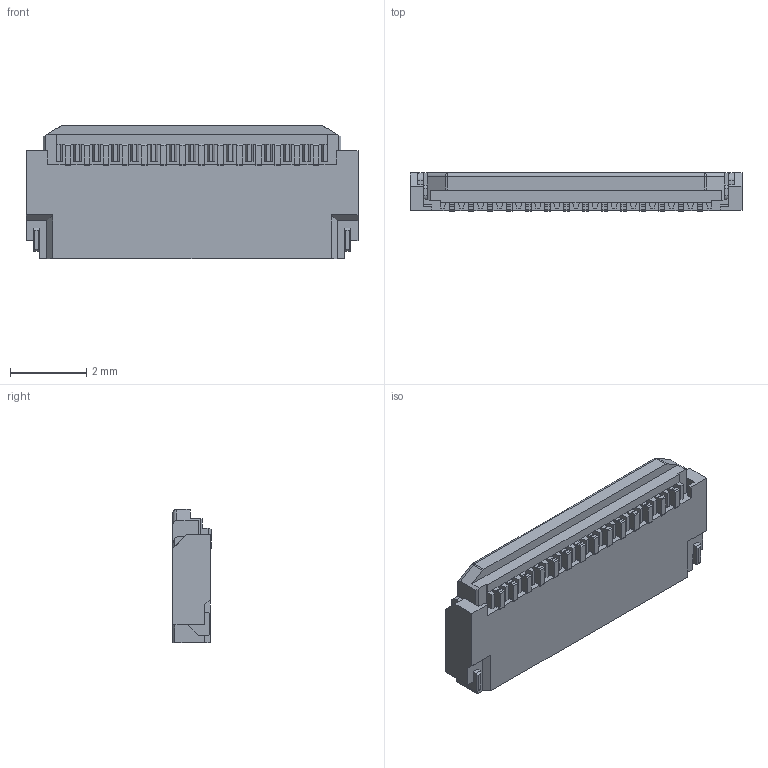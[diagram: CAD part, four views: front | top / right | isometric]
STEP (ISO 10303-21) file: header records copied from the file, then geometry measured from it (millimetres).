
FILE_DESCRIPTION (( 'STEP AP203' ), '1' );
FILE_NAME ('20542-014E-01C ACT CLOSE STEP R1 ALL.STEP', '2013-03-20T08:14:51', ( '' ), ( '' ), 'SwSTEP 2.0', 'SolidWorks 2011', '' );
FILE_SCHEMA (( 'CONFIG_CONTROL_DESIGN' ));
Length unit declared in the file: millimetre
Products named in the file (1): 20542-014E-01C ACT CLOSE STEP R1 ALL
Bounding box: 8.7 x 1 x 3.5 mm (x, y, z)
Volume: 25.5 mm3; surface area: 90.8 mm2
Topology: 1 solids, 1 shells, 349 faces, 1091 edges, 714 vertices
Faces by surface type: plane 280, cylinder 67, sphere 2
Entity records: 12060 total; most frequent: ORIENTED_EDGE 2178, CARTESIAN_POINT 2171, DIRECTION 1915, EDGE_CURVE 1089, VECTOR 951, LINE 951, VERTEX_POINT 714, AXIS2_PLACEMENT_3D 482
